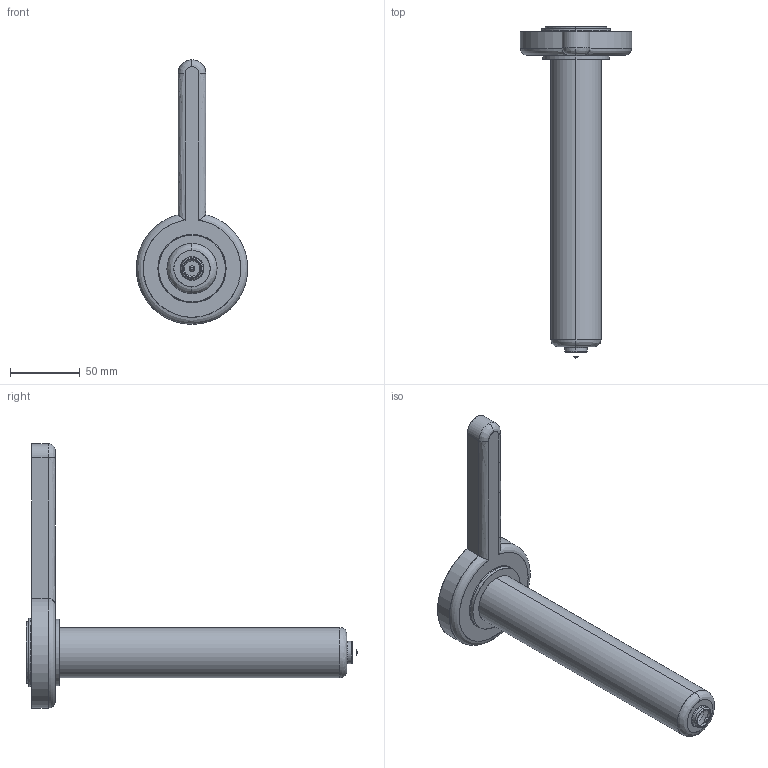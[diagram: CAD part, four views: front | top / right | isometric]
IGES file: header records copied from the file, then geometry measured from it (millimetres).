
Start section: SolidWorks IGES file using analytic representation for surfaces
Global section: file name: C:\Documents and Settings\ws-20\Desktop\TEM\Sede UGEP5005-S-A C-214 L-236 Ød-2.0.IGS; native system: SolidWorks 2012; preprocessor: SolidWorks 2012; author: ws-20; date: 120426.142629; units: millimetre
Bounding box: 79.97 x 238.54 x 190 mm (x, y, z)
Surface area: 45626.6 mm2 (no closed solid volume)
Topology: 0 solids, 0 shells, 44 faces, 952 edges, 952 vertices
Faces by surface type: revolution 27, bspline 17
